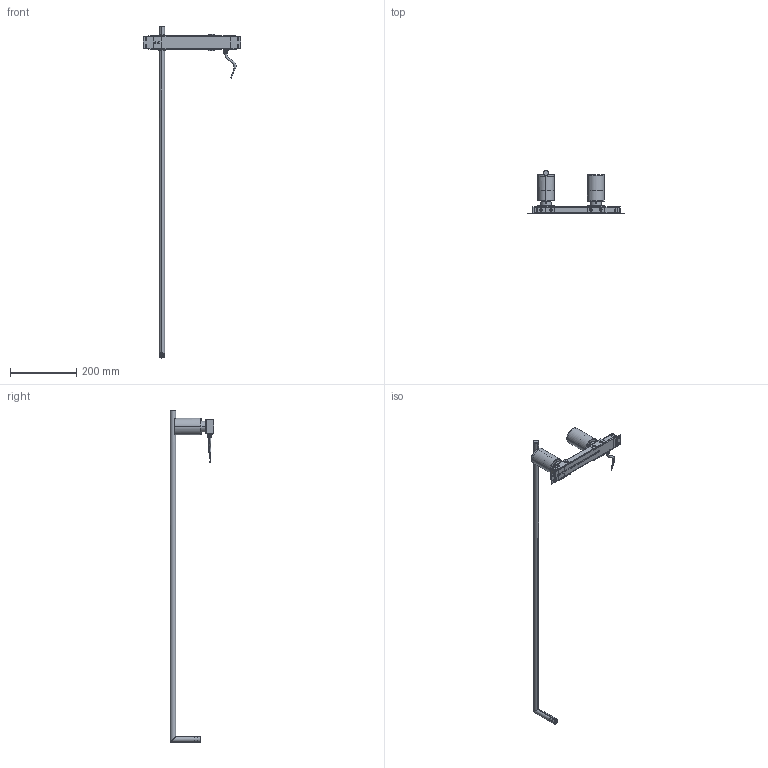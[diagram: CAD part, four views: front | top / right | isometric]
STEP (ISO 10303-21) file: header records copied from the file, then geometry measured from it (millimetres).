
FILE_DESCRIPTION((''),'2;1');
FILE_NAME('10000001_ASM','2025-07-03T16:40:22',('PC'),(''),'CREO PARAMETRIC BY PTC INC, 2019010','CREO PARAMETRIC BY PTC INC, 2019010','');
FILE_SCHEMA(('CONFIG_CONTROL_DESIGN'));
Length unit declared in the file: millimetre
Products named in the file (22): 0001; 0002; U0001; U0002; 1-BB1_3; M4X6100; M4X60001; 00; 0004; M5X1200; 1000000; 160001; 000; 0006; 31000; 0007; 20001; 0008; 1-0001; 0009; 30001; 10000001_ASM
Assembly tree (37 placements, depth 2):
  10000001_ASM
    0001
    0002
    U0001  x2
    U0002
    1-BB1_3
    M4X6100  x4
    M4X60001  x4
    00  x2
    0004  x2
    M5X1200  x8
    1000000
    160001
    000
    0006
    31000
    0007
    20001
    0008
    1-0001
    0009
    30001
Bounding box: 293.08 x 130.31 x 1000 mm (x, y, z)
Volume: 249498.3 mm3; surface area: 302639.1 mm2
Topology: 47 solids, 52 shells, 2576 faces, 6971 edges, 4532 vertices
Faces by surface type: plane 1208, cylinder 839, bspline 302, cone 193, torus 26, revolution 8
Entity records: 79054 total; most frequent: CARTESIAN_POINT 34239, ORIENTED_EDGE 9710, DIRECTION 8437, EDGE_CURVE 4859, VERTEX_POINT 3176, VECTOR 3043, LINE 3043, AXIS2_PLACEMENT_3D 2693
